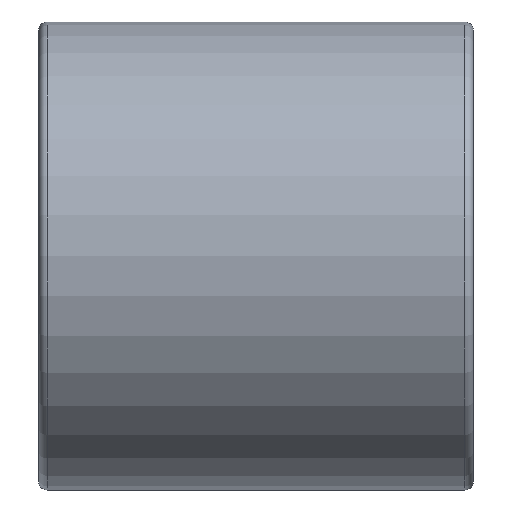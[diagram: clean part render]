
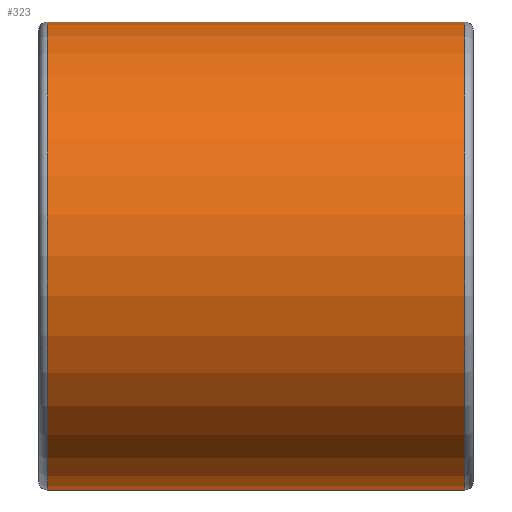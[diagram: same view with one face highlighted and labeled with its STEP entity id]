
A CAD part, top view. The second image highlights one B-rep face of the part: STEP entity #323.
In plain terms, the highlighted cylindrical face has radius 14 mm (diameter 28 mm), a partial arc.
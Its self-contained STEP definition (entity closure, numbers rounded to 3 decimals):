
#203=CARTESIAN_POINT('Vertex',(25.5,-14.,0.)) ;
#210=CARTESIAN_POINT('Vertex',(25.5,14.,0.)) ;
#230=CARTESIAN_POINT('Axis2P3D Location',(25.5,0.,0.)) ;
#251=CARTESIAN_POINT('Vertex',(0.5,14.,0.)) ;
#258=CARTESIAN_POINT('Vertex',(0.5,-14.,0.)) ;
#261=CARTESIAN_POINT('Axis2P3D Location',(0.5,0.,0.)) ;
#295=CARTESIAN_POINT('Line Origine',(13.,14.,0.)) ;
#300=CARTESIAN_POINT('Line Origine',(13.,-14.,0.)) ;
#312=CARTESIAN_POINT('Axis2P3D Location',(13.,0.,0.)) ;
#231=DIRECTION('Axis2P3D Direction',(1.,-0.,0.)) ;
#262=DIRECTION('Axis2P3D Direction',(1.,-0.,0.)) ;
#296=DIRECTION('Vector Direction',(1.,0.,0.)) ;
#301=DIRECTION('Vector Direction',(1.,0.,0.)) ;
#313=DIRECTION('Axis2P3D Direction',(1.,0.,0.)) ;
#314=DIRECTION('Axis2P3D XDirection',(0.,1.,0.)) ;
#232=AXIS2_PLACEMENT_3D('Circle Axis2P3D',#230,#231,$) ;
#263=AXIS2_PLACEMENT_3D('Circle Axis2P3D',#261,#262,$) ;
#315=AXIS2_PLACEMENT_3D('Cylinder Axis2P3D',#312,#313,#314) ;
#318=ORIENTED_EDGE('',*,*,#304,.T.) ;
#319=ORIENTED_EDGE('',*,*,#234,.F.) ;
#320=ORIENTED_EDGE('',*,*,#299,.F.) ;
#321=ORIENTED_EDGE('',*,*,#265,.T.) ;
#297=VECTOR('Line Direction',#296,1.) ;
#302=VECTOR('Line Direction',#301,1.) ;
#323=ADVANCED_FACE('STM16',(#322),#316,.T.) ;
#233=CIRCLE('generated circle',#232,14.) ;
#264=CIRCLE('generated circle',#263,14.) ;
#316=CYLINDRICAL_SURFACE('generated cylinder',#315,14.) ;
#234=EDGE_CURVE('',#211,#204,#233,.T.) ;
#265=EDGE_CURVE('',#252,#259,#264,.T.) ;
#299=EDGE_CURVE('',#252,#211,#298,.T.) ;
#304=EDGE_CURVE('',#259,#204,#303,.T.) ;
#317=EDGE_LOOP('',(#318,#319,#320,#321)) ;
#322=FACE_OUTER_BOUND('',#317,.T.) ;
#298=LINE('Line',#295,#297) ;
#303=LINE('Line',#300,#302) ;
#204=VERTEX_POINT('',#203) ;
#211=VERTEX_POINT('',#210) ;
#252=VERTEX_POINT('',#251) ;
#259=VERTEX_POINT('',#258) ;
